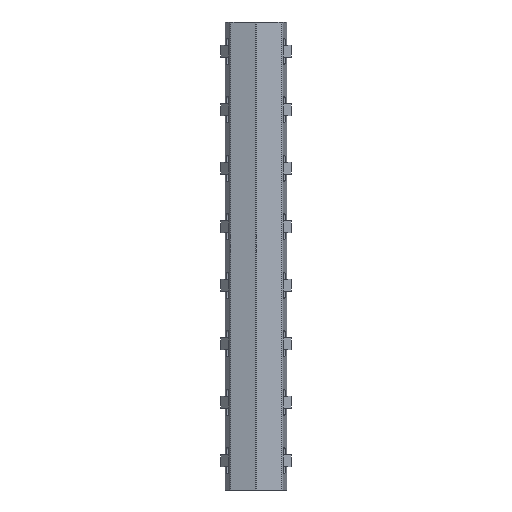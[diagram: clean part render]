
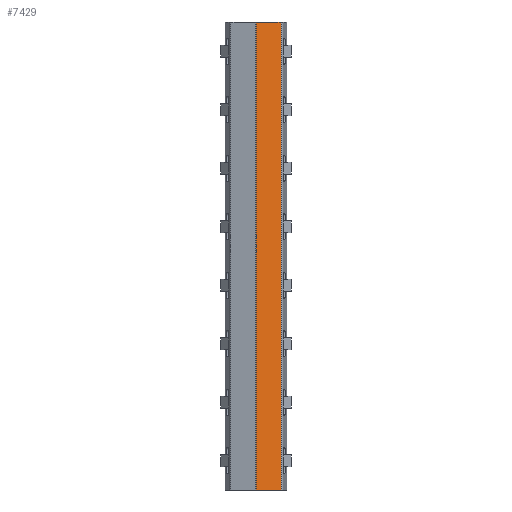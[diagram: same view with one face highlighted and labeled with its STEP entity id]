
A CAD part, front view. The second image highlights one B-rep face of the part: STEP entity #7429.
In plain terms, the highlighted planar face has unit normal (0.208, -0.978, 0).
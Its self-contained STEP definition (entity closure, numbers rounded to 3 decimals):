
#128 = DIRECTION ( 'NONE',  ( 0., 0., -1. ) ) ;
#280 = CARTESIAN_POINT ( 'NONE',  ( 0.083, 0.009, 80. ) ) ;
#1117 = VERTEX_POINT ( 'NONE', #2342 ) ;
#1259 = VECTOR ( 'NONE', #1870, 1000. ) ;
#1456 = ORIENTED_EDGE ( 'NONE', *, *, #5515, .T. ) ;
#1870 = DIRECTION ( 'NONE',  ( 0.978, 0.208, 0. ) ) ;
#2113 = CARTESIAN_POINT ( 'NONE',  ( 4.283, 0.901, 80. ) ) ;
#2174 = LINE ( 'NONE', #2113, #10552 ) ;
#2208 = ORIENTED_EDGE ( 'NONE', *, *, #10826, .F. ) ;
#2286 = VERTEX_POINT ( 'NONE', #8296 ) ;
#2342 = CARTESIAN_POINT ( 'NONE',  ( 4.283, 0.901, 0. ) ) ;
#2462 = VERTEX_POINT ( 'NONE', #3508 ) ;
#2660 = VECTOR ( 'NONE', #128, 1000. ) ;
#3428 = CARTESIAN_POINT ( 'NONE',  ( 0.083, 0.009, 80. ) ) ;
#3508 = CARTESIAN_POINT ( 'NONE',  ( 4.283, 0.901, 80. ) ) ;
#3607 = EDGE_CURVE ( 'NONE', #2286, #2462, #3640, .T. ) ;
#3640 = LINE ( 'NONE', #7967, #10274 ) ;
#3743 = ORIENTED_EDGE ( 'NONE', *, *, #3607, .F. ) ;
#3799 = CARTESIAN_POINT ( 'NONE',  ( 0.083, 0.009, 0. ) ) ;
#4433 = LINE ( 'NONE', #3428, #2660 ) ;
#4529 = FACE_OUTER_BOUND ( 'NONE', #9049, .T. ) ;
#5251 = DIRECTION ( 'NONE',  ( -0.208, 0.978, 0. ) ) ;
#5515 = EDGE_CURVE ( 'NONE', #2286, #10232, #4433, .T. ) ;
#6597 = CARTESIAN_POINT ( 'NONE',  ( 0.083, 0.009, 0. ) ) ;
#6989 = EDGE_CURVE ( 'NONE', #10232, #1117, #10474, .T. ) ;
#7069 = PLANE ( 'NONE',  #10487 ) ;
#7429 = ADVANCED_FACE ( 'NONE', ( #4529 ), #7069, .F. ) ;
#7967 = CARTESIAN_POINT ( 'NONE',  ( 0.083, 0.009, 80. ) ) ;
#8296 = CARTESIAN_POINT ( 'NONE',  ( 0.083, 0.009, 80. ) ) ;
#8695 = DIRECTION ( 'NONE',  ( 0., 0., 1. ) ) ;
#9049 = EDGE_LOOP ( 'NONE', ( #9956, #2208, #3743, #1456 ) ) ;
#9472 = DIRECTION ( 'NONE',  ( 0., 0., -1. ) ) ;
#9956 = ORIENTED_EDGE ( 'NONE', *, *, #6989, .T. ) ;
#10232 = VERTEX_POINT ( 'NONE', #6597 ) ;
#10274 = VECTOR ( 'NONE', #10646, 1000. ) ;
#10474 = LINE ( 'NONE', #3799, #1259 ) ;
#10487 = AXIS2_PLACEMENT_3D ( 'NONE', #280, #5251, #8695 ) ;
#10552 = VECTOR ( 'NONE', #9472, 1000. ) ;
#10646 = DIRECTION ( 'NONE',  ( 0.978, 0.208, 0. ) ) ;
#10826 = EDGE_CURVE ( 'NONE', #2462, #1117, #2174, .T. ) ;
